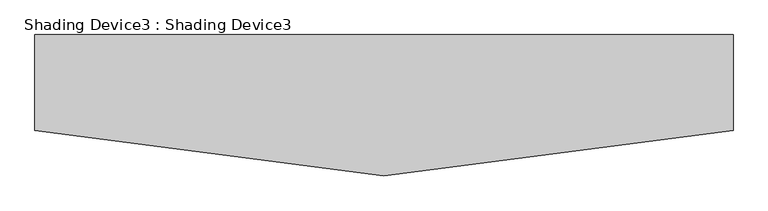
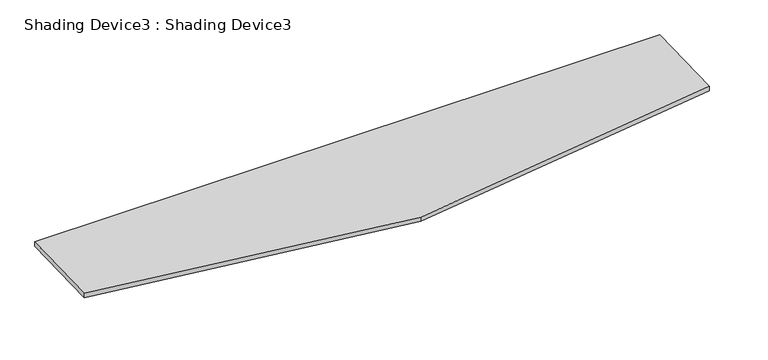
"""IFC4 building model written with IfcOpenShell, lengths in millimetres: proxy geometry, Shading Device3 : Shading Device3."""

from ifc_helpers import new_model, si_unit, frame, origin, place, context, project, spatial, polyline, circle_curve, ellipse_curve, source, transform, mapped, element, save
from ifc_brep_helpers import plane_surface, cylinder_surface, revolved_surface, advanced_brep


def shading_device3_shading_device3_e523e190(model_context):
    return source(origin(), model_context, "Body", "AdvancedBrep", [
        advanced_brep(
        [(3614.648982, -29.6508083, 35.0971674), (3614.648982, -524.6707834, 20.1163246), (3614.648982, -524.6707834, -5.307202), (3614.648982, -29.6508083, 9.7403031), (0.0, -29.6508083, 9.7403031), (0.0, -524.6707834, -5.307202), (0.0, -524.6707834, 20.1163246), (0.0, -29.6508083, 35.0971674), (1807.324491, -761.9110602, -27.8850206), (1807.324491, -761.9110602, -2.3603946)],
        [
            (0, 1, circle_curve(frame((3614.648982, -104.4862864, -5678.1691482), z_axis=(1.0, 0.0, 0.0), x_axis=(0.0, -1.0, 0.0)), 5713.7564125)),
            (1, 2),
            (2, 3, circle_curve(frame((3614.648982, -104.490949, -5678.1286485), z_axis=(-1.0, 0.0, 0.0), x_axis=(0.0, -1.0, 0.0)), 5688.3612981)),
            (3, 0),
            (4, 5, circle_curve(frame((0.0, -104.490949, -5678.1286485), z_axis=(1.0, 0.0, 0.0), x_axis=(0.0, -1.0, 0.0)), 5688.3612981)),
            (5, 6),
            (6, 7, circle_curve(frame((0.0, -104.4862864, -5678.1691482), z_axis=(-1.0, 0.0, 0.0), x_axis=(0.0, -1.0, 0.0)), 5713.7564125)),
            (7, 4),
            (2, 8, ellipse_curve(frame((6815.6286626, -104.490949, -5678.1286485), z_axis=(0.13014951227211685, -0.991494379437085, 0.0), x_axis=(-0.991494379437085, -0.13014951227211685, 0.0)), 43706.3589312, 5688.3612981)),
            (8, 5, ellipse_curve(frame((-3200.9796806, -104.490949, -5678.1286485), z_axis=(-0.13014951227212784, -0.9914943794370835, 0.0), x_axis=(-0.9914943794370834, 0.13014951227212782, 0.0)), 43706.3589312, 5688.3612981)),
            (4, 3),
            (6, 9, ellipse_curve(frame((-3201.0152007, -104.4862864, -5678.1691482), z_axis=(0.13014951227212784, 0.9914943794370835, 0.0), x_axis=(0.9914943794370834, -0.13014951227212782, 0.0)), 43901.481556, 5713.7564125)),
            (9, 1, ellipse_curve(frame((6815.6641827, -104.4862864, -5678.1691482), z_axis=(-0.13014951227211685, 0.991494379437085, 0.0), x_axis=(0.991494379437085, 0.13014951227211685, 0.0)), 43901.481556, 5713.7564125)),
            (0, 7),
            (8, 9),
        ],
        [
            plane_surface(frame((3614.648982, -762.0, -20.7144303), z_axis=(1.0, 0.0, 0.0), x_axis=(0.0, 0.0, 1.0))),
            plane_surface(frame((0.0, -762.0, -20.7144303), z_axis=(-1.0, 0.0, 0.0), x_axis=(0.0, 0.0, -1.0))),
            revolved_surface(polyline([(-46535.58890654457, -5792.8522471, -5678.1286485), (50150.23788854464, -5792.8522471, -5678.1286485)]), (0.0, -104.490949, -5678.1286485), (-1.0, 0.0, 0.0)),
            cylinder_surface(frame((0.0, -104.4862864, -5678.1691482), z_axis=(1.0, 0.0, 0.0), x_axis=(0.0, -1.0, 0.0)), 5713.7564125),
            plane_surface(frame((3614.648982, -29.6508083, 35.0971674), z_axis=(0.0, 1.0, 1.5327123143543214e-12), x_axis=(-1.0, 0.0, 0.0))),
            plane_surface(frame((-127.0, -508.0, 206.1065907), z_axis=(-0.13014951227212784, -0.9914943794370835, 0.0), x_axis=(0.0, 0.0, -1.0))),
            plane_surface(frame((1807.324491, -761.9110602, 206.1065907), z_axis=(0.13014951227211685, -0.991494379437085, 0.0), x_axis=(0.0, 0.0, -1.0))),
        ],
        [
            (0, [[1, 2, 3, 4]]),
            (1, [[5, 6, 7, 8]]),
            (2, [[-3, 9, 10, -5, 11]]),
            (3, [[-7, 12, 13, -1, 14]]),
            (4, [[-11, -8, -14, -4]]),
            (5, [[-12, -6, -10, 15]]),
            (6, [[-9, -2, -13, -15]]),
        ],
    ),
    ])


if __name__ == "__main__":
    model = new_model("IFC4")
    model_context = context("Model", 3, world=origin())
    ifc_project = project(units=[si_unit("LENGTHUNIT", "METRE", prefix="MILLI")], contexts=[model_context])
    site = spatial("IfcSite", under=ifc_project)
    building = spatial("IfcBuilding", under=site)
    placement = place(None, origin())
    shading_device3_shading_device3_shape = shading_device3_shading_device3_e523e190(model_context)
    element("IfcBuildingElementProxy", 1, Name="Shading Device3 : Shading Device3", ObjectType="Shading Device3 : Shading Device3", at=placement, inside=building, context=model_context, shape_type="MappedRepresentation", body=[
        mapped(shading_device3_shading_device3_shape, transform((0.0, 0.0, 0.0), x_axis=(1.0, 0.0, 0.0), y_axis=(0.0, 1.0, 0.0), z_axis=(0.0, 0.0, 1.0))),
    ])
    save(model, "model.ifc")
